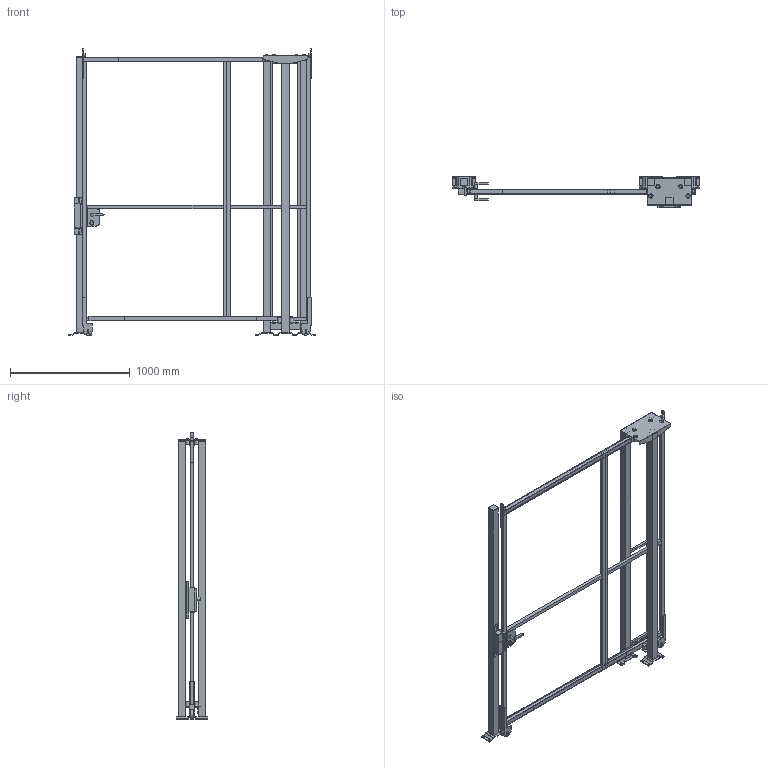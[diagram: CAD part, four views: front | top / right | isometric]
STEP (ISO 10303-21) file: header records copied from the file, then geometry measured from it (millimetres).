
FILE_DESCRIPTION(/* description */ (''),/* implementation_level */ '2;1');
FILE_NAME(/* name */ 'C:\SafeGuarding\ELABORATI\KLADKOUGAMMA_2025-03-21-09-11-31.stp',/* time_stamp */ '2025-03-21T09:11:33+01:00',/* author */ ('admin'),/* organization */ (''),/* preprocessor_version */ 'ST-DEVELOPER v18.1',/* originating_system */ 'AutoCAD Mechanical',/* authorisation */ '');
FILE_SCHEMA (('AUTOMOTIVE_DESIGN { 1 0 10303 214 3 1 1 }'));
Length unit declared in the file: millimetre
Products named in the file (5): Product; R_VFPA.REPE30.07002200; R_VFPA.REPE30.12002200; R_VFPA.REPE20.02502200; P_VFMA.V260SDU.2320
Assembly tree (7 placements, depth 2):
  Product
    R_VFPA.REPE30.07002200
    R_VFPA.REPE30.12002200
    P_VFMA.V260SDU.2320  x4
    R_VFPA.REPE20.02502200
Bounding box: 2061.92 x 264 x 2390.02 mm (x, y, z)
Volume: 52693157.4 mm3; surface area: 6828288.9 mm2
Topology: 67 solids, 67 shells, 602 faces, 1721 edges, 1674 vertices
Faces by surface type: plane 524, cylinder 74, bspline 4
Full cylindrical faces by diameter (mm): 9 x4, 11 x16, 13 x4, 18 x1, 25 x2, 25.398 x2, 30 x6, 36 x8, 80 x2
Entity records: 17889 total; most frequent: CARTESIAN_POINT 4637, DIRECTION 2641, ORIENTED_EDGE 2350, LINE 1201, VECTOR 1201, EDGE_CURVE 1175, VERTEX_POINT 790, AXIS2_PLACEMENT_3D 720
